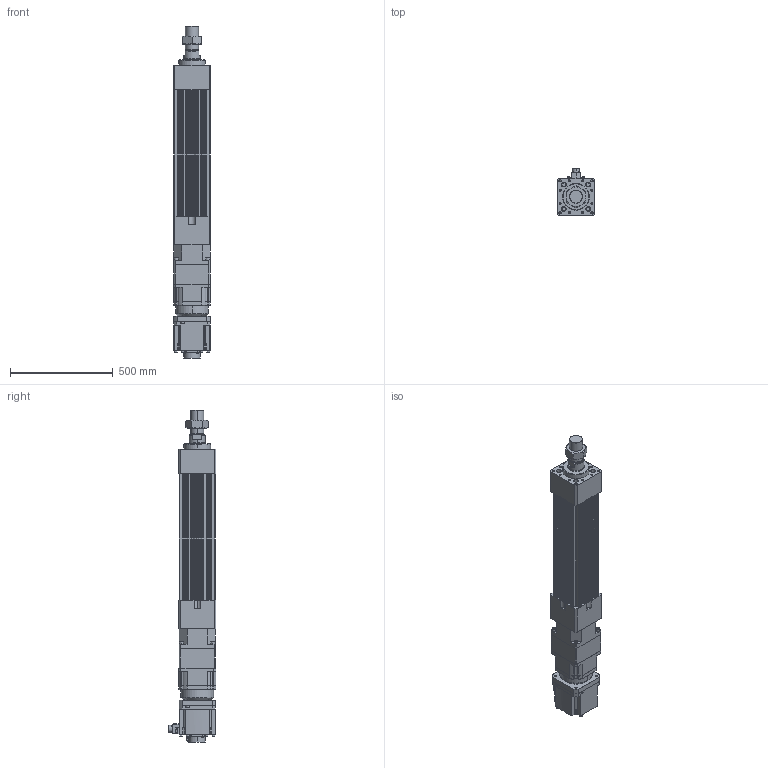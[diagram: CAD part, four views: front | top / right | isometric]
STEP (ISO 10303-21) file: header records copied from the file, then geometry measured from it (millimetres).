
FILE_DESCRIPTION (( 'STEP AP203' ), '1' );
FILE_NAME ('HES180HS-S300-W050G00-M.STEP', '2023-02-01T09:39:47', ( 'tms' ), ( '' ), 'SwSTEP 2.0', 'SolidWorks 2013', '' );
FILE_SCHEMA (( 'CONFIG_CONTROL_DESIGN' ));
Length unit declared in the file: millimetre
Products named in the file (9): HES180-S300-G180; AB1801; HES180 ROD M ST300; P0403600401; P1301600001; HG-SR502; M64X2.0P; HES180HS-S300-W050G00-M; AB180-003[HG-SR702B]
Assembly tree (8 placements, depth 3):
  HES180HS-S300-W050G00-M
    HES180-S300-G180
    HES180 ROD M ST300
    M64X2.0P
    AB180-003[HG-SR702B]
      AB1801
      P1301600001
      P0403600401
    HG-SR502
Bounding box: 180 x 230.85 x 1617 mm (x, y, z)
Volume: 24040174.2 mm3; surface area: 2217175.6 mm2
Topology: 4 solids, 23 shells, 1534 faces, 3945 edges, 2546 vertices
Faces by surface type: cylinder 693, plane 600, cone 174, bspline 63, torus 4
Entity records: 55246 total; most frequent: CARTESIAN_POINT 16431, DIRECTION 8177, ORIENTED_EDGE 7750, EDGE_CURVE 3899, AXIS2_PLACEMENT_3D 3072, VERTEX_POINT 2546, LINE 2033, VECTOR 2033
